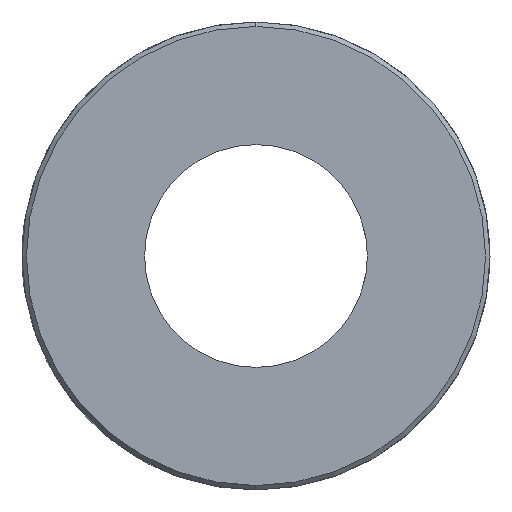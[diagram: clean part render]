
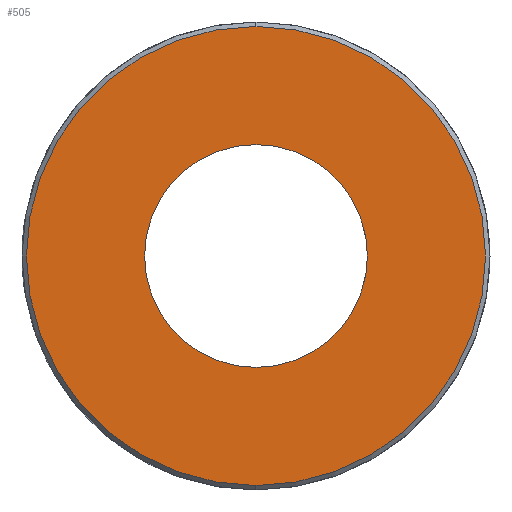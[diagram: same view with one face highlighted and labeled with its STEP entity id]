
A CAD part, left-side view. The second image highlights one B-rep face of the part: STEP entity #505.
In plain terms, the highlighted planar face has unit normal (-1, 0, 0) as drawn and (0, 0, 1) by its records, which use the part's own axes.
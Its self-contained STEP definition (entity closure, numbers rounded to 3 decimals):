
#54 = DIRECTION ( 'NONE',  ( 1., 0., 0. ) ) ;
#67 = CARTESIAN_POINT ( 'NONE',  ( -10.3, 0., 5.5 ) ) ;
#120 = FACE_OUTER_BOUND ( 'NONE', #391, .T. ) ;
#130 = CARTESIAN_POINT ( 'NONE',  ( 0., 0., 5.5 ) ) ;
#181 = DIRECTION ( 'NONE',  ( 0., 0., 1. ) ) ;
#391 = EDGE_LOOP ( 'NONE', ( #1020, #1568 ) ) ;
#394 = VERTEX_POINT ( 'NONE', #1239 ) ;
#414 = EDGE_LOOP ( 'NONE', ( #1818, #964 ) ) ;
#431 = DIRECTION ( 'NONE',  ( 1., 0., 0. ) ) ;
#442 = DIRECTION ( 'NONE',  ( 1., 0., 0. ) ) ;
#452 = AXIS2_PLACEMENT_3D ( 'NONE', #130, #1268, #431 ) ;
#465 = CIRCLE ( 'NONE', #1292, 5. ) ;
#471 = AXIS2_PLACEMENT_3D ( 'NONE', #1810, #1221, #1244 ) ;
#485 = CARTESIAN_POINT ( 'NONE',  ( 0., 0., 5.5 ) ) ;
#499 = AXIS2_PLACEMENT_3D ( 'NONE', #485, #181, #907 ) ;
#505 = ADVANCED_FACE ( 'NONE', ( #120, #1692 ), #1701, .T. ) ;
#612 = CARTESIAN_POINT ( 'NONE',  ( 5., 0., 5.5 ) ) ;
#617 = CIRCLE ( 'NONE', #471, 5. ) ;
#698 = CIRCLE ( 'NONE', #1528, 10.3 ) ;
#708 = VERTEX_POINT ( 'NONE', #612 ) ;
#711 = CARTESIAN_POINT ( 'NONE',  ( -5., 0., 5.5 ) ) ;
#757 = EDGE_CURVE ( 'NONE', #946, #708, #465, .T. ) ;
#907 = DIRECTION ( 'NONE',  ( 1., 0., 0. ) ) ;
#946 = VERTEX_POINT ( 'NONE', #711 ) ;
#964 = ORIENTED_EDGE ( 'NONE', *, *, #1646, .F. ) ;
#1020 = ORIENTED_EDGE ( 'NONE', *, *, #1378, .T. ) ;
#1117 = VERTEX_POINT ( 'NONE', #67 ) ;
#1176 = DIRECTION ( 'NONE',  ( 0., 0., 1. ) ) ;
#1221 = DIRECTION ( 'NONE',  ( 0., 0., 1. ) ) ;
#1239 = CARTESIAN_POINT ( 'NONE',  ( 10.3, 0., 5.5 ) ) ;
#1244 = DIRECTION ( 'NONE',  ( 1., 0., 0. ) ) ;
#1268 = DIRECTION ( 'NONE',  ( 0., 0., 1. ) ) ;
#1292 = AXIS2_PLACEMENT_3D ( 'NONE', #1605, #1440, #442 ) ;
#1378 = EDGE_CURVE ( 'NONE', #1117, #394, #1411, .T. ) ;
#1406 = EDGE_CURVE ( 'NONE', #394, #1117, #698, .T. ) ;
#1411 = CIRCLE ( 'NONE', #499, 10.3 ) ;
#1440 = DIRECTION ( 'NONE',  ( 0., 0., 1. ) ) ;
#1528 = AXIS2_PLACEMENT_3D ( 'NONE', #1769, #1176, #54 ) ;
#1568 = ORIENTED_EDGE ( 'NONE', *, *, #1406, .T. ) ;
#1605 = CARTESIAN_POINT ( 'NONE',  ( 0., 0., 5.5 ) ) ;
#1646 = EDGE_CURVE ( 'NONE', #708, #946, #617, .T. ) ;
#1692 = FACE_BOUND ( 'NONE', #414, .T. ) ;
#1701 = PLANE ( 'NONE',  #452 ) ;
#1769 = CARTESIAN_POINT ( 'NONE',  ( 0., 0., 5.5 ) ) ;
#1810 = CARTESIAN_POINT ( 'NONE',  ( 0., 0., 5.5 ) ) ;
#1818 = ORIENTED_EDGE ( 'NONE', *, *, #757, .F. ) ;
